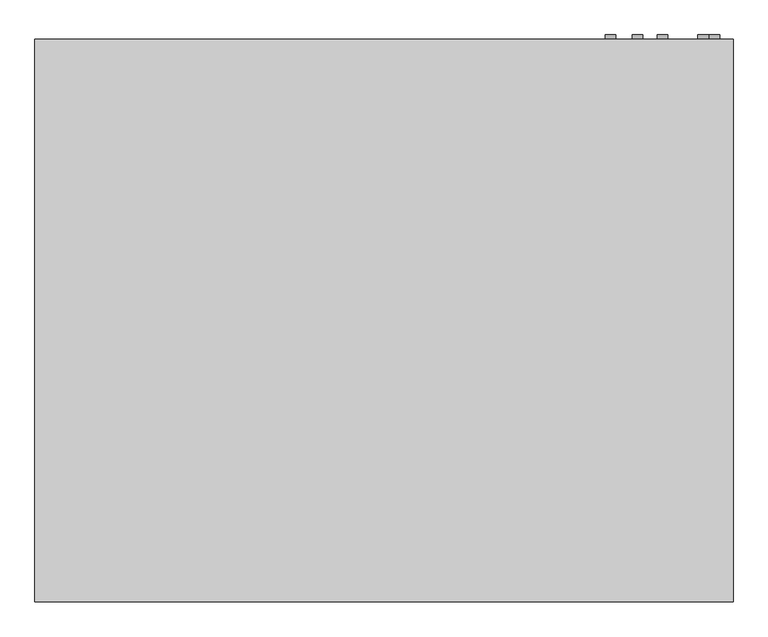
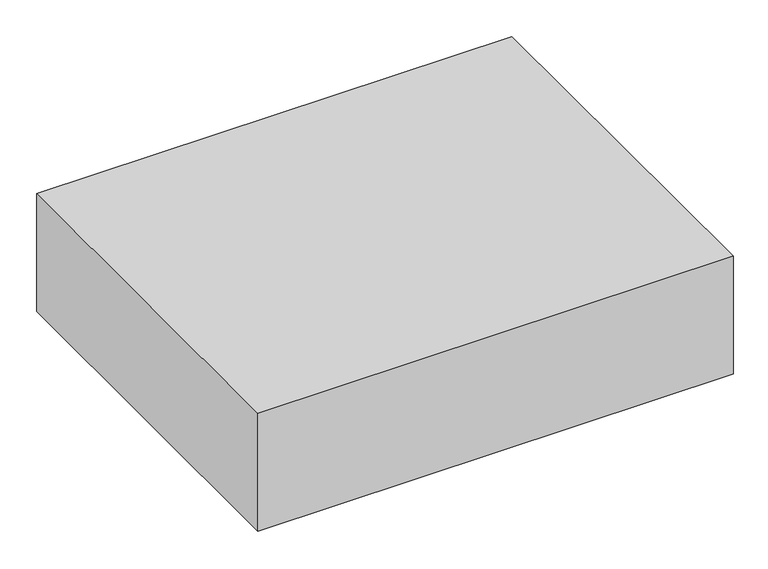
"""IFC4 building model written with IfcOpenShell, lengths in millimetres: proxy geometry, Exposed_Horizontal_Fan_Coil_Unit_-_42CGB_-_CARRIER_-_4-Pipe_BS-BR_RH_2022 : Size 03 - 277v/60Hz/1Ph - 4/1 Coil."""

from ifc_helpers import new_model, si_unit, point, frame, frame_2d, origin, place, context, project, spatial, polyline, circle_curve, trimmed, segment, composite_curve, outline, extrude, source, transform, mapped, element, save


def mechanical_equipment_8cf3cfa9(model_context):
    return source(origin(), model_context, "Body", "SweptSolid", [
        extrude(outline(polyline([(425.45, -439.7375), (425.45, -585.7875), (-120.65, -585.7875), (-120.65, -439.7375), (425.45, -439.7375)])), frame((0.0, 0.0, -285.75), z_axis=(0.0, 0.0, 1.0), x_axis=(1.0, 0.0, 0.0)), (0.0, 0.0, 1.0), 6.35),
        extrude(outline(composite_curve([segment(trimmed(circle_curve(frame_2d((-85.725, 657.225)), 7.9375), [point((-85.725, 665.1625))], [point((-85.725, 649.2875))], False, "CARTESIAN"), True, "CONTINUOUS"), segment(trimmed(circle_curve(frame_2d((-85.725, 657.225)), 7.9375), [point((-85.725, 649.2875))], [point((-85.725, 665.1625))], False, "CARTESIAN"), True, "CONTINUOUS")], self_intersect=False)), frame((0.0, 192.0875, 0.0), z_axis=(0.0, 1.0, 0.0), x_axis=(0.0, 0.0, 1.0)), (0.0, 0.0, 1.0), 6.35),
        extrude(outline(composite_curve([segment(trimmed(circle_curve(frame_2d((-44.45, 577.85)), 7.9375), [point((-44.45, 585.7875))], [point((-44.45, 569.9125))], False, "CARTESIAN"), True, "CONTINUOUS"), segment(trimmed(circle_curve(frame_2d((-44.45, 577.85)), 7.9375), [point((-44.45, 569.9125))], [point((-44.45, 585.7875))], False, "CARTESIAN"), True, "CONTINUOUS")], self_intersect=False)), frame((0.0, 192.0875, 0.0), z_axis=(0.0, 1.0, 0.0), x_axis=(0.0, 0.0, 1.0)), (0.0, 0.0, 1.0), 6.35),
        extrude(outline(composite_curve([segment(trimmed(circle_curve(frame_2d((-95.25, 539.75)), 7.9375), [point((-95.25, 547.6875))], [point((-95.25, 531.8125))], False, "CARTESIAN"), True, "CONTINUOUS"), segment(trimmed(circle_curve(frame_2d((-95.25, 539.75)), 7.9375), [point((-95.25, 531.8125))], [point((-95.25, 547.6875))], False, "CARTESIAN"), True, "CONTINUOUS")], self_intersect=False)), frame((0.0, 192.0875, 0.0), z_axis=(0.0, 1.0, 0.0), x_axis=(0.0, 0.0, 1.0)), (0.0, 0.0, 1.0), 6.35),
        extrude(outline(composite_curve([segment(trimmed(circle_curve(frame_2d((-60.325, 498.475)), 7.9375), [point((-60.325, 506.4125))], [point((-60.325, 490.5375))], False, "CARTESIAN"), True, "CONTINUOUS"), segment(trimmed(circle_curve(frame_2d((-60.325, 498.475)), 7.9375), [point((-60.325, 490.5375))], [point((-60.325, 506.4125))], False, "CARTESIAN"), True, "CONTINUOUS")], self_intersect=False)), frame((0.0, 192.0875, 0.0), z_axis=(0.0, 1.0, 0.0), x_axis=(0.0, 0.0, 1.0)), (0.0, 0.0, 1.0), 6.35),
        extrude(outline(composite_curve([segment(trimmed(circle_curve(frame_2d((-260.35, 641.35)), 9.525), [point((-260.35, 650.875))], [point((-260.35, 631.825))], False, "CARTESIAN"), True, "CONTINUOUS"), segment(trimmed(circle_curve(frame_2d((-260.35, 641.35)), 9.525), [point((-260.35, 631.825))], [point((-260.35, 650.875))], False, "CARTESIAN"), True, "CONTINUOUS")], self_intersect=False)), frame((0.0, 192.0875, 0.0), z_axis=(0.0, 1.0, 0.0), x_axis=(0.0, 0.0, 1.0)), (0.0, 0.0, 1.0), 6.35),
        extrude(outline(polyline([(-381.0, 192.0875), (685.8, 192.0875), (685.8, -668.3375), (-381.0, -668.3375), (-381.0, 192.0875)])), frame((0.0, 0.0, -279.4), z_axis=(0.0, 0.0, 1.0), x_axis=(1.0, 0.0, 0.0)), (0.0, 0.0, 1.0), 279.4),
        extrude(outline(polyline([(508.0, 115.8875), (508.0, -138.1125), (-203.2, -138.1125), (-203.2, 115.8875), (508.0, 115.8875)])), frame((0.0, 0.0, -285.75), z_axis=(0.0, 0.0, 1.0), x_axis=(1.0, 0.0, 0.0)), (0.0, 0.0, 1.0), 6.35),
    ])


if __name__ == "__main__":
    model = new_model("IFC4")
    model_context = context("Model", 3, world=origin())
    ifc_project = project(units=[si_unit("LENGTHUNIT", "METRE", prefix="MILLI")], contexts=[model_context])
    site = spatial("IfcSite", under=ifc_project)
    building = spatial("IfcBuilding", under=site)
    placement = place(None, origin())
    mechanical_equipment_shape = mechanical_equipment_8cf3cfa9(model_context)
    element("IfcBuildingElementProxy", 1, Name="Exposed_Horizontal_Fan_Coil_Unit_-_42CGB_-_CARRIER_-_4-Pipe_BS-BR_RH_2022 : Size 03 - 277v/60Hz/1Ph - 4/1 Coil", ObjectType="Exposed_Horizontal_Fan_Coil_Unit_-_42CGB_-_CARRIER_-_4-Pipe_BS-BR_RH_2022 : Size 03 - 277v/60Hz/1Ph - 4/1 Coil", at=placement, inside=building, context=model_context, shape_type="MappedRepresentation", body=[
        mapped(mechanical_equipment_shape, transform((0.0, 0.0, 0.0), x_axis=(1.0, 0.0, 0.0), y_axis=(0.0, 1.0, 0.0), z_axis=(0.0, 0.0, 1.0))),
    ])
    save(model, "model.ifc")
